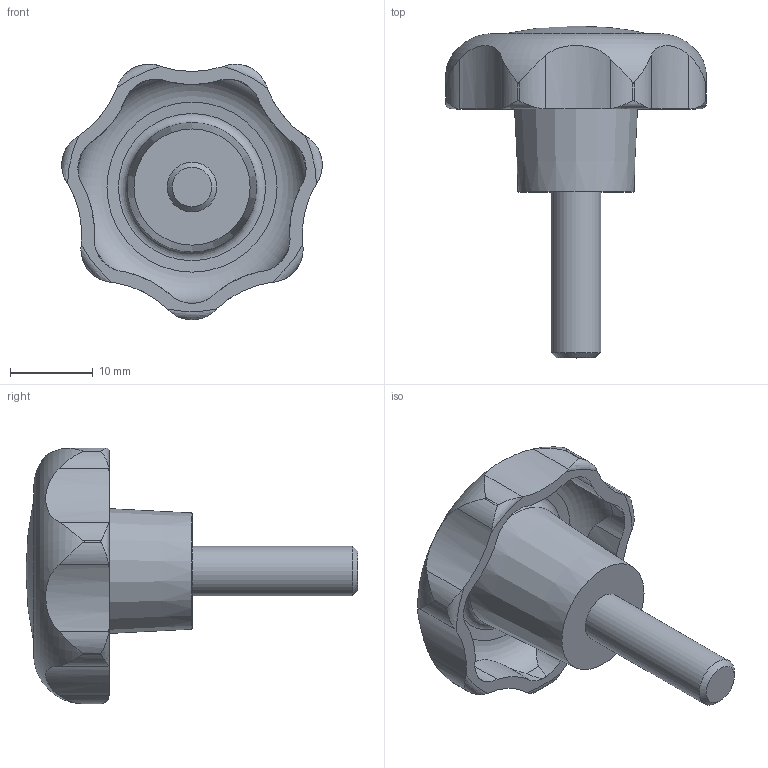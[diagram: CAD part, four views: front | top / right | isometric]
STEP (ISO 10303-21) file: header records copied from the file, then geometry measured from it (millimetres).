
FILE_DESCRIPTION( ( 'STEP AP203' ), '1' );
FILE_NAME( 'C:/Temp/Ganter_Step_05_03_2020/data/2_2/gn_6336_4/gn_6336_4_st/Star knob GN 6336.4-ST-32-M6-20.stp', '2020-03-05T12:07:20', ( 'License CC BY-ND 4.0' ), ( 'CADENAS' ), ' ', 'PARTsolutions', ' ' );
FILE_SCHEMA( ( 'CONFIG_CONTROL_DESIGN' ) );
Length unit declared in the file: millimetre
Products named in the file (1): _Star knob GN 6336.4-ST-32-M6-20
Bounding box: 31.4 x 40 x 30.81 mm (x, y, z)
Volume: 6367.3 mm3; surface area: 3553.1 mm2
Topology: 1 solids, 1 shells, 74 faces, 209 edges, 138 vertices
Faces by surface type: cylinder 50, torus 10, cone 10, plane 3, sphere 1
Full cylindrical faces by diameter (mm): 6 x1
Entity records: 3221 total; most frequent: CARTESIAN_POINT 1406, ORIENTED_EDGE 394, DIRECTION 336, EDGE_CURVE 197, AXIS2_PLACEMENT_3D 147, VERTEX_POINT 136, EDGE_LOOP 83, B_SPLINE_CURVE_WITH_KNOTS 83
